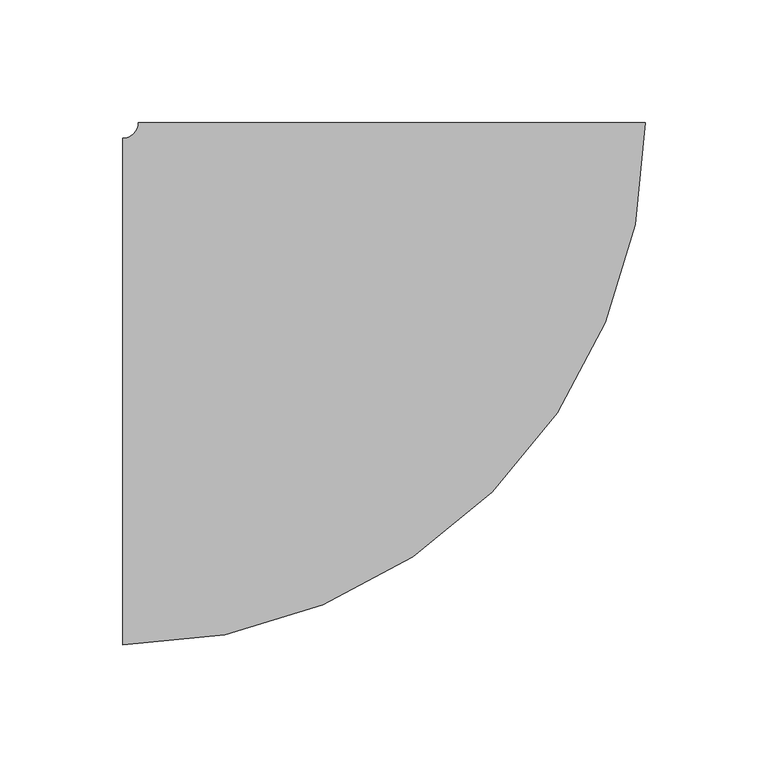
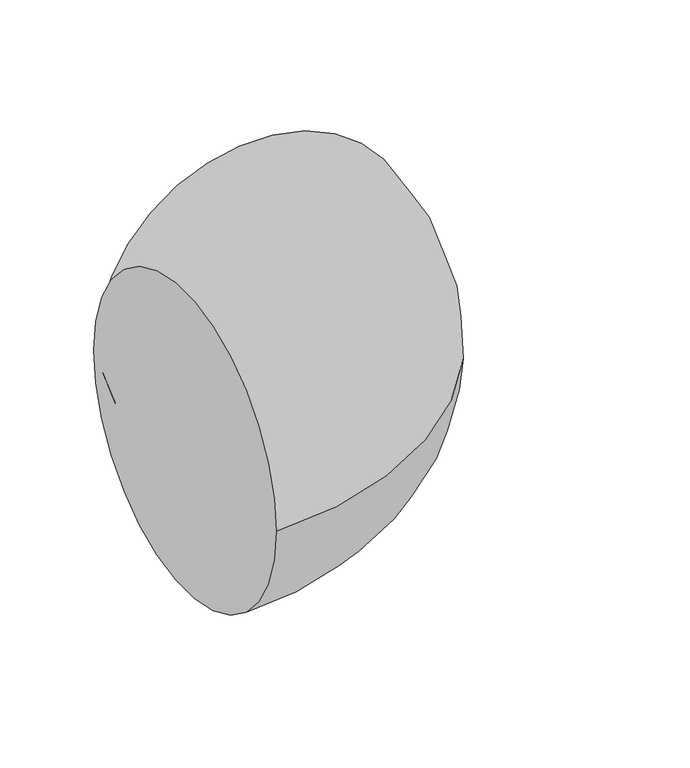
"""IFC4 building model written with IfcOpenShell, lengths in millimetres: pipe fitting geometry, M_Codo - Genérico : Estándar."""

from ifc_helpers import new_model, si_unit, point, frame, origin, place, context, project, spatial, circle_curve, ellipse_curve, trimmed, source, transform, mapped, element, save
from ifc_brep_helpers import plane_surface, revolved_surface, advanced_brep


def pipe_fitting_b37f0415(model_context):
    return source(origin(), model_context, "Body", "AdvancedBrep", [
        advanced_brep(
        [(-109.5375, -103.1875, 0.0), (-109.5375, 103.1875, 0.0), (103.1875, 109.5375, 0.0), (-103.1875, 109.5375, 0.0)],
        [
            (0, 1, circle_curve(frame((-109.5375, 0.0, 0.0), z_axis=(-1.0, 0.0, 0.0), x_axis=(0.0, 1.0, 0.0)), 103.1875)),
            (1, 0, circle_curve(frame((-109.5375, 0.0, 0.0), z_axis=(-1.0, 0.0, 0.0), x_axis=(0.0, 1.0, 0.0)), 103.1875)),
            (2, 3, circle_curve(frame((0.0, 109.5375, 0.0), z_axis=(0.0, 1.0, 0.0), x_axis=(-1.0, 0.0, 0.0)), 103.1875)),
            (3, 2, circle_curve(frame((0.0, 109.5375, 0.0), z_axis=(0.0, 1.0, 0.0), x_axis=(-1.0, 0.0, 0.0)), 103.1875)),
            (3, 1, circle_curve(frame((-109.5375, 109.5375, 0.0), z_axis=(0.0, 0.0, -1.0), x_axis=(0.0, -1.0, 0.0)), 6.35)),
            (0, 2, circle_curve(frame((-109.5375, 109.5375, 0.0), z_axis=(0.0, 0.0, 1.0), x_axis=(0.0, -1.0, 0.0)), 212.725)),
        ],
        [
            plane_surface(frame((-109.5375, 0.0, 0.0), z_axis=(-1.0, 0.0, 0.0), x_axis=(0.0, 0.0, 1.0))),
            plane_surface(frame((0.0, 109.5375, 0.0), z_axis=(0.0, 1.0, 0.0), x_axis=(0.0, 0.0, 1.0))),
            revolved_surface(trimmed(ellipse_curve(frame((-109.5375, 0.0, 0.0), z_axis=(-1.0, 0.0, 0.0), x_axis=(0.0, 1.0, 0.0)), 103.1875, 103.1875), [point((-109.5375, -103.1875, 0.0))], [point((-109.5375, 103.1875, 0.0))], True, "CARTESIAN"), (-109.5375, 109.5375, 0.0), (0.0, 0.0, 1.0)),
            revolved_surface(trimmed(ellipse_curve(frame((-109.5375, 0.0, 0.0), z_axis=(-1.0, 0.0, 0.0), x_axis=(0.0, 1.0, 0.0)), 103.1875, 103.1875), [point((-109.5375, 103.1875, 0.0))], [point((-109.5375, -103.1875, 0.0))], True, "CARTESIAN"), (-109.5375, 109.5375, 0.0), (0.0, 0.0, 1.0)),
        ],
        [
            (0, [[1, 2]]),
            (1, [[3, 4]]),
            (2, [[5, -1, 6, -4]]),
            (3, [[-6, -2, -5, -3]]),
        ],
    ),
    ])


if __name__ == "__main__":
    model = new_model("IFC4")
    model_context = context("Model", 3, world=origin())
    ifc_project = project(units=[si_unit("LENGTHUNIT", "METRE", prefix="MILLI")], contexts=[model_context])
    site = spatial("IfcSite", under=ifc_project)
    building = spatial("IfcBuilding", under=site)
    placement = place(None, origin())
    pipe_fitting_shape = pipe_fitting_b37f0415(model_context)
    element("IfcPipeFitting", 1, ObjectType="M_Codo - Genérico : Estándar", at=placement, inside=building, context=model_context, shape_type="MappedRepresentation", body=[
        mapped(pipe_fitting_shape, transform((0.0, 0.0, 0.0), x_axis=(1.0, 0.0, 0.0), y_axis=(0.0, 1.0, 0.0), z_axis=(0.0, 0.0, 1.0))),
    ])
    save(model, "model.ifc")
